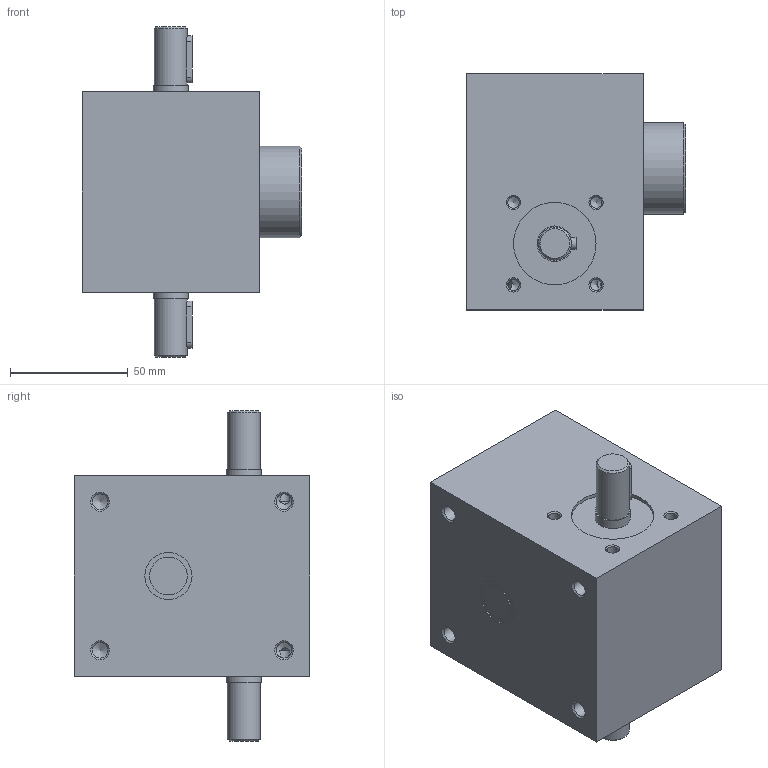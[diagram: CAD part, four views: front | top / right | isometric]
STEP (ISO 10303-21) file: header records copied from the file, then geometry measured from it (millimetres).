
FILE_DESCRIPTION(/* description */ (''),/* implementation_level */ '2;1');
FILE_NAME(/* name */ 'D:\FOLDER Tomasz Michałek\pliki z pulpitu\Katalogi przekładni\Podnośniki śrubowe\Pivexin Technology\Podnosniki - potrzebne\Modele podnosnikow\R\SG10\M2-R-161\SG10-R-L.stp',/* time_stamp */ '2016-06-07T22:35:00+02:00',/* author */ ('Tomasz'),/* organization */ (''),/* preprocessor_version */ 'ST-DEVELOPER v16.1',/* originating_system */ 'Autodesk Inventor 2016',/* authorisation */ '');
FILE_SCHEMA (('AUTOMOTIVE_DESIGN { 1 0 10303 214 3 1 1 }'));
Length unit declared in the file: millimetre
Products named in the file (3): slimacznicza_SG10; SG10-R_obudowa; SG10-R-H
Assembly tree (2 placements, depth 2):
  SG10-R-H
    slimacznicza_SG10
    SG10-R_obudowa
Bounding box: 93 x 100 x 140 mm (x, y, z)
Volume: 629545 mm3; surface area: 67663.6 mm2
Topology: 2 solids, 2 shells, 87 faces, 211 edges, 132 vertices
Faces by surface type: cone 35, cylinder 30, plane 22
Full cylindrical faces by diameter (mm): 4.917 x8, 6.647 x8, 14 x2, 15 x2, 16 x1, 20 x2, 35 x2, 38.7 x1
Entity records: 2241 total; most frequent: CARTESIAN_POINT 538, DIRECTION 362, ORIENTED_EDGE 246, AXIS2_PLACEMENT_3D 167, EDGE_LOOP 160, EDGE_CURVE 123, VERTEX_POINT 103, FACE_OUTER_BOUND 87
